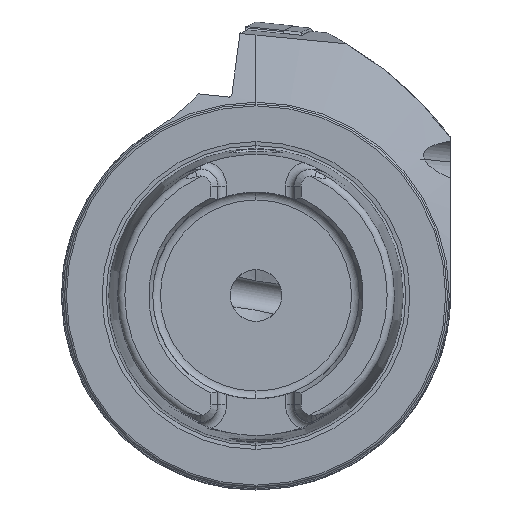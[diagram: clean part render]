
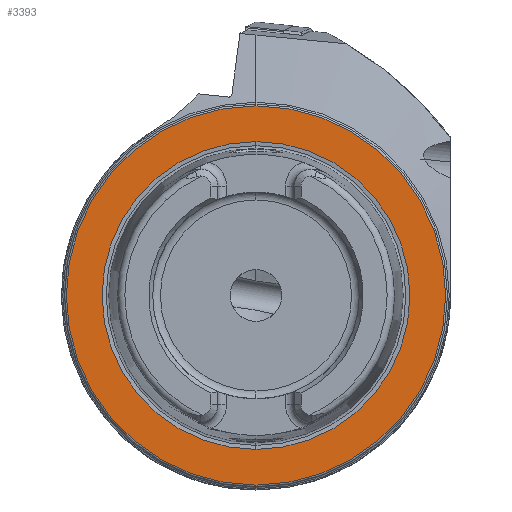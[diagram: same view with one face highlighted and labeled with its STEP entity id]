
A CAD part, left-side view. The second image highlights one B-rep face of the part: STEP entity #3393.
In plain terms, the highlighted planar face has unit normal (-1, 0, 0).
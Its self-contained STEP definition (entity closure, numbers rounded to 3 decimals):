
#368 = DIRECTION ( 'NONE',  ( -1., 0., 0. ) ) ;
#941 = DIRECTION ( 'NONE',  ( 0., 0., 1. ) ) ;
#1194 = CIRCLE ( 'NONE', #6381, 31.2 ) ;
#1571 = CARTESIAN_POINT ( 'NONE',  ( 0., 0., 31.2 ) ) ;
#1804 = DIRECTION ( 'NONE',  ( 0., 0., -1. ) ) ;
#2045 = EDGE_LOOP ( 'NONE', ( #4298, #10225 ) ) ;
#2145 = FACE_OUTER_BOUND ( 'NONE', #7660, .T. ) ;
#2244 = CIRCLE ( 'NONE', #4139, 25.324 ) ;
#2363 = CARTESIAN_POINT ( 'NONE',  ( 0., 0., 0. ) ) ;
#2777 = CARTESIAN_POINT ( 'NONE',  ( 0., 0., 0. ) ) ;
#3393 = ADVANCED_FACE ( 'NONE', ( #10259, #2145 ), #8467, .F. ) ;
#3842 = AXIS2_PLACEMENT_3D ( 'NONE', #2777, #9397, #941 ) ;
#4009 = CIRCLE ( 'NONE', #3842, 31.2 ) ;
#4139 = AXIS2_PLACEMENT_3D ( 'NONE', #2363, #8299, #6618 ) ;
#4151 = AXIS2_PLACEMENT_3D ( 'NONE', #9450, #6984, #1804 ) ;
#4282 = CARTESIAN_POINT ( 'NONE',  ( 0., 0., 0. ) ) ;
#4298 = ORIENTED_EDGE ( 'NONE', *, *, #8617, .F. ) ;
#4700 = CARTESIAN_POINT ( 'NONE',  ( 0., 0., -25.324 ) ) ;
#4819 = DIRECTION ( 'NONE',  ( 0., 0., 1. ) ) ;
#4841 = AXIS2_PLACEMENT_3D ( 'NONE', #4282, #368, #4819 ) ;
#5188 = VERTEX_POINT ( 'NONE', #4700 ) ;
#5409 = ORIENTED_EDGE ( 'NONE', *, *, #10443, .T. ) ;
#5664 = VERTEX_POINT ( 'NONE', #10869 ) ;
#5757 = VERTEX_POINT ( 'NONE', #6597 ) ;
#6227 = VERTEX_POINT ( 'NONE', #1571 ) ;
#6381 = AXIS2_PLACEMENT_3D ( 'NONE', #7339, #9132, #8230 ) ;
#6597 = CARTESIAN_POINT ( 'NONE',  ( 0., 0., -31.2 ) ) ;
#6618 = DIRECTION ( 'NONE',  ( 0., 0., 1. ) ) ;
#6813 = EDGE_CURVE ( 'NONE', #6227, #5757, #1194, .T. ) ;
#6984 = DIRECTION ( 'NONE',  ( 1., 0., 0. ) ) ;
#7339 = CARTESIAN_POINT ( 'NONE',  ( 0., 0., 0. ) ) ;
#7660 = EDGE_LOOP ( 'NONE', ( #8093, #5409 ) ) ;
#8093 = ORIENTED_EDGE ( 'NONE', *, *, #6813, .T. ) ;
#8230 = DIRECTION ( 'NONE',  ( 0., 0., 1. ) ) ;
#8299 = DIRECTION ( 'NONE',  ( -1., 0., 0. ) ) ;
#8467 = PLANE ( 'NONE',  #4151 ) ;
#8617 = EDGE_CURVE ( 'NONE', #5664, #5188, #10616, .T. ) ;
#9132 = DIRECTION ( 'NONE',  ( -1., 0., 0. ) ) ;
#9397 = DIRECTION ( 'NONE',  ( -1., 0., 0. ) ) ;
#9450 = CARTESIAN_POINT ( 'NONE',  ( 0., 31.2, 0. ) ) ;
#10225 = ORIENTED_EDGE ( 'NONE', *, *, #10578, .F. ) ;
#10259 = FACE_BOUND ( 'NONE', #2045, .T. ) ;
#10443 = EDGE_CURVE ( 'NONE', #5757, #6227, #4009, .T. ) ;
#10578 = EDGE_CURVE ( 'NONE', #5188, #5664, #2244, .T. ) ;
#10616 = CIRCLE ( 'NONE', #4841, 25.324 ) ;
#10869 = CARTESIAN_POINT ( 'NONE',  ( 0., 0., 25.324 ) ) ;
